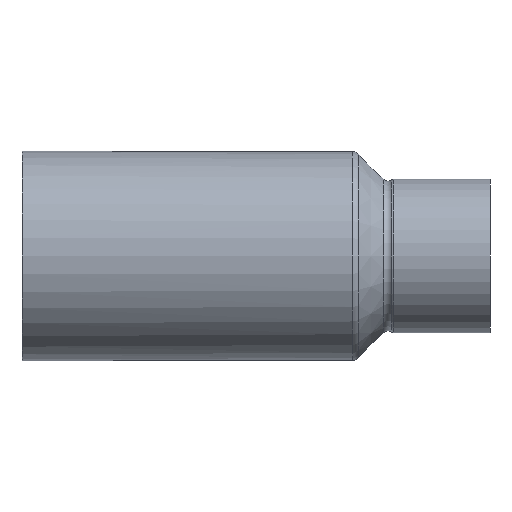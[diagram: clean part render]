
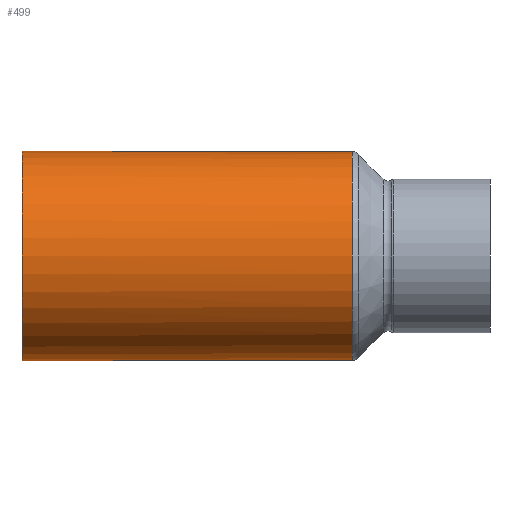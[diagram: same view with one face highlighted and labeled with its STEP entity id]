
A CAD part, front view. The second image highlights one B-rep face of the part: STEP entity #499.
In plain terms, the highlighted cylindrical face has radius 12.075 mm (diameter 24.15 mm), a full revolution.
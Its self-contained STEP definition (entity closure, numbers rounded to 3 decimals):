
#34=B_SPLINE_CURVE_WITH_KNOTS('',3,(#900,#901,#902,#903,#904,#905,#906,
#907,#908,#909,#910,#911,#912),.UNSPECIFIED.,.F.,.F.,(4,3,3,3,4),(-6.037,
-5.822,-5.606,-5.175,-5.025),
 .UNSPECIFIED.);
#35=B_SPLINE_CURVE_WITH_KNOTS('',3,(#914,#915,#916,#917,#918,#919,#920),
 .UNSPECIFIED.,.F.,.F.,(4,1,1,1,4),(-0.952,-0.862,
-0.431,-0.216,0.),.UNSPECIFIED.);
#36=B_SPLINE_CURVE_WITH_KNOTS('',3,(#922,#923,#924,#925,#926,#927,#928,
#929),.UNSPECIFIED.,.F.,.F.,(4,1,1,1,1,4),(-2.066,-2.012,
-1.725,-1.437,-1.15,-0.952),
 .UNSPECIFIED.);
#37=B_SPLINE_CURVE_WITH_KNOTS('',3,(#930,#931,#932,#933,#934,#935,#936,
#937,#938,#939,#940,#941,#942,#943,#944,#945,#946,#947,#948,#949,#950,#951,
#952,#953,#954,#955,#956,#957),.UNSPECIFIED.,.F.,.F.,(4,3,3,3,3,3,3,3,3,
4),(-4.03,-3.737,-3.45,-3.306,
-3.162,-3.019,-2.875,-2.587,
-2.3,-2.066),.UNSPECIFIED.);
#57=LINE('',#959,#68);
#68=VECTOR('',#669,12.075);
#79=CYLINDRICAL_SURFACE('',#569,12.075);
#94=FACE_OUTER_BOUND('',#124,.T.);
#124=EDGE_LOOP('',(#360,#361,#362,#363,#364,#365,#366,#367,#368));
#167=CIRCLE('',#567,12.075);
#168=CIRCLE('',#568,12.075);
#169=CIRCLE('',#570,12.075);
#207=VERTEX_POINT('',#832);
#211=VERTEX_POINT('',#839);
#212=VERTEX_POINT('',#841);
#213=VERTEX_POINT('',#899);
#214=VERTEX_POINT('',#913);
#215=VERTEX_POINT('',#921);
#216=VERTEX_POINT('',#958);
#266=EDGE_CURVE('',#211,#212,#167,.T.);
#267=EDGE_CURVE('',#212,#207,#168,.T.);
#270=EDGE_CURVE('',#213,#211,#34,.T.);
#271=EDGE_CURVE('',#214,#213,#35,.T.);
#272=EDGE_CURVE('',#215,#214,#36,.T.);
#273=EDGE_CURVE('',#207,#215,#37,.T.);
#274=EDGE_CURVE('',#212,#216,#57,.T.);
#275=EDGE_CURVE('',#216,#216,#169,.T.);
#360=ORIENTED_EDGE('',*,*,#266,.F.);
#361=ORIENTED_EDGE('',*,*,#270,.F.);
#362=ORIENTED_EDGE('',*,*,#271,.F.);
#363=ORIENTED_EDGE('',*,*,#272,.F.);
#364=ORIENTED_EDGE('',*,*,#273,.F.);
#365=ORIENTED_EDGE('',*,*,#267,.F.);
#366=ORIENTED_EDGE('',*,*,#274,.T.);
#367=ORIENTED_EDGE('',*,*,#275,.T.);
#368=ORIENTED_EDGE('',*,*,#274,.F.);
#499=ADVANCED_FACE('',(#94),#79,.T.);
#567=AXIS2_PLACEMENT_3D('',#842,#663,#664);
#568=AXIS2_PLACEMENT_3D('',#843,#665,#666);
#569=AXIS2_PLACEMENT_3D('',#898,#667,#668);
#570=AXIS2_PLACEMENT_3D('',#960,#670,#671);
#663=DIRECTION('center_axis',(1.,0.,0.));
#664=DIRECTION('ref_axis',(0.,-1.,0.));
#665=DIRECTION('center_axis',(1.,0.,0.));
#666=DIRECTION('ref_axis',(0.,-1.,0.));
#667=DIRECTION('center_axis',(1.,0.,0.));
#668=DIRECTION('ref_axis',(0.,1.,0.));
#669=DIRECTION('',(-1.,0.,0.));
#670=DIRECTION('center_axis',(1.,0.,0.));
#671=DIRECTION('ref_axis',(0.,1.,0.));
#832=CARTESIAN_POINT('',(11.089,10.938,-5.11));
#839=CARTESIAN_POINT('',(11.085,10.939,5.114));
#841=CARTESIAN_POINT('',(11.086,-12.075,0.));
#842=CARTESIAN_POINT('Origin',(11.086,0.,0.));
#843=CARTESIAN_POINT('Origin',(11.086,0.,0.));
#898=CARTESIAN_POINT('Origin',(0.,0.,0.));
#899=CARTESIAN_POINT('',(0.,6.766,10.001));
#900=CARTESIAN_POINT('Ctrl Pts',(0.,6.766,
10.001));
#901=CARTESIAN_POINT('Ctrl Pts',(1.025,6.766,10.001));
#902=CARTESIAN_POINT('Ctrl Pts',(2.047,6.917,9.903));
#903=CARTESIAN_POINT('Ctrl Pts',(3.003,7.156,9.726));
#904=CARTESIAN_POINT('Ctrl Pts',(3.958,7.395,9.55));
#905=CARTESIAN_POINT('Ctrl Pts',(4.846,7.723,9.295));
#906=CARTESIAN_POINT('Ctrl Pts',(5.678,8.074,8.979));
#907=CARTESIAN_POINT('Ctrl Pts',(7.341,8.777,8.347));
#908=CARTESIAN_POINT('Ctrl Pts',(8.778,9.576,7.471));
#909=CARTESIAN_POINT('Ctrl Pts',(9.957,10.266,6.358));
#910=CARTESIAN_POINT('Ctrl Pts',(10.367,10.506,5.971));
#911=CARTESIAN_POINT('Ctrl Pts',(10.745,10.732,5.556));
#912=CARTESIAN_POINT('Ctrl Pts',(11.085,10.939,5.114));
#913=CARTESIAN_POINT('',(-10.659,10.682,5.631));
#914=CARTESIAN_POINT('Ctrl Pts',(-10.659,10.682,5.631));
#915=CARTESIAN_POINT('Ctrl Pts',(-10.438,10.549,5.882));
#916=CARTESIAN_POINT('Ctrl Pts',(-9.077,9.742,7.288));
#917=CARTESIAN_POINT('Ctrl Pts',(-6.63,8.381,8.783));
#918=CARTESIAN_POINT('Ctrl Pts',(-3.07,7.067,9.805));
#919=CARTESIAN_POINT('Ctrl Pts',(-1.025,6.766,10.001));
#920=CARTESIAN_POINT('Ctrl Pts',(0.,6.766,
10.001));
#921=CARTESIAN_POINT('',(-10.659,10.68,-5.634));
#922=CARTESIAN_POINT('Ctrl Pts',(-10.659,10.68,-5.634));
#923=CARTESIAN_POINT('Ctrl Pts',(-10.79,10.759,-5.484));
#924=CARTESIAN_POINT('Ctrl Pts',(-11.6,11.249,-4.506));
#925=CARTESIAN_POINT('Ctrl Pts',(-12.738,11.969,-2.429));
#926=CARTESIAN_POINT('Ctrl Pts',(-13.082,12.194,0.817));
#927=CARTESIAN_POINT('Ctrl Pts',(-12.196,11.621,3.593));
#928=CARTESIAN_POINT('Ctrl Pts',(-11.149,10.975,5.075));
#929=CARTESIAN_POINT('Ctrl Pts',(-10.659,10.682,5.631));
#930=CARTESIAN_POINT('Ctrl Pts',(11.09,10.938,-5.108));
#931=CARTESIAN_POINT('Ctrl Pts',(10.425,10.533,-5.974));
#932=CARTESIAN_POINT('Ctrl Pts',(9.607,10.051,-6.744));
#933=CARTESIAN_POINT('Ctrl Pts',(8.688,9.548,-7.394));
#934=CARTESIAN_POINT('Ctrl Pts',(7.787,9.055,-8.032));
#935=CARTESIAN_POINT('Ctrl Pts',(6.789,8.542,-8.556));
#936=CARTESIAN_POINT('Ctrl Pts',(5.683,8.075,-8.976));
#937=CARTESIAN_POINT('Ctrl Pts',(5.131,7.841,-9.186));
#938=CARTESIAN_POINT('Ctrl Pts',(4.551,7.619,-9.371));
#939=CARTESIAN_POINT('Ctrl Pts',(3.943,7.425,-9.522));
#940=CARTESIAN_POINT('Ctrl Pts',(3.336,7.231,-9.674));
#941=CARTESIAN_POINT('Ctrl Pts',(2.7,7.065,-9.793));
#942=CARTESIAN_POINT('Ctrl Pts',(2.04,6.949,-9.875));
#943=CARTESIAN_POINT('Ctrl Pts',(1.38,6.833,-9.957));
#944=CARTESIAN_POINT('Ctrl Pts',(0.696,6.766,-10.001));
#945=CARTESIAN_POINT('Ctrl Pts',(0.011,6.766,-10.001));
#946=CARTESIAN_POINT('Ctrl Pts',(-0.674,6.765,-10.002));
#947=CARTESIAN_POINT('Ctrl Pts',(-1.359,6.831,-9.958));
#948=CARTESIAN_POINT('Ctrl Pts',(-2.02,6.945,-9.878));
#949=CARTESIAN_POINT('Ctrl Pts',(-3.34,7.174,-9.716));
#950=CARTESIAN_POINT('Ctrl Pts',(-4.558,7.599,-9.405));
#951=CARTESIAN_POINT('Ctrl Pts',(-5.669,8.069,-8.983));
#952=CARTESIAN_POINT('Ctrl Pts',(-6.781,8.539,-8.562));
#953=CARTESIAN_POINT('Ctrl Pts',(-7.786,9.054,-8.029));
#954=CARTESIAN_POINT('Ctrl Pts',(-8.687,9.547,-7.393));
#955=CARTESIAN_POINT('Ctrl Pts',(-9.419,9.948,-6.876));
#956=CARTESIAN_POINT('Ctrl Pts',(-10.083,10.334,-6.29));
#957=CARTESIAN_POINT('Ctrl Pts',(-10.659,10.68,-5.634));
#958=CARTESIAN_POINT('',(-27.,-12.075,0.));
#959=CARTESIAN_POINT('',(0.,-12.075,0.));
#960=CARTESIAN_POINT('Origin',(-27.,0.,0.));
